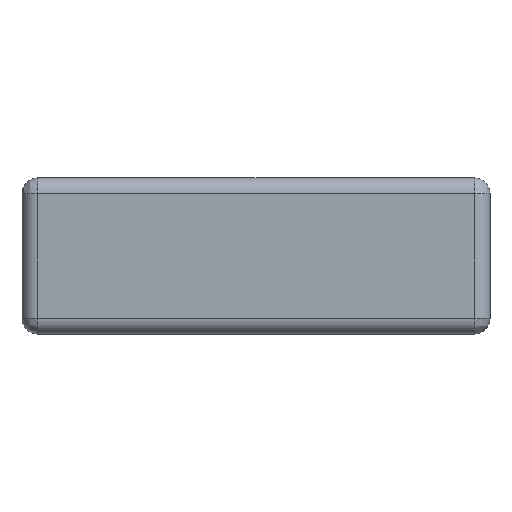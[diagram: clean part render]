
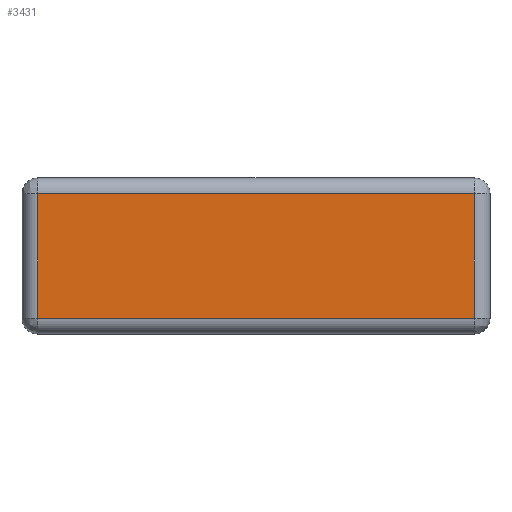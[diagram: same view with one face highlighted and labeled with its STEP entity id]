
A CAD part, top view. The second image highlights one B-rep face of the part: STEP entity #3431.
In plain terms, the highlighted planar face has unit normal (0, 0, 1).
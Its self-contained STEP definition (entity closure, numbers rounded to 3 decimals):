
#41 = CARTESIAN_POINT ( 'NONE',  ( -28., 0., 0. ) ) ;
#72 = VERTEX_POINT ( 'NONE', #582 ) ;
#435 = DIRECTION ( 'NONE',  ( 0., -1., 0. ) ) ;
#437 = VECTOR ( 'NONE', #1192, 1000. ) ;
#582 = CARTESIAN_POINT ( 'NONE',  ( -28., -8., 0. ) ) ;
#895 = CARTESIAN_POINT ( 'NONE',  ( 0., 8., 0. ) ) ;
#1037 = EDGE_CURVE ( 'NONE', #2438, #3680, #3984, .T. ) ;
#1122 = EDGE_CURVE ( 'NONE', #3680, #1691, #1809, .T. ) ;
#1192 = DIRECTION ( 'NONE',  ( 0., 1., 0. ) ) ;
#1227 = ORIENTED_EDGE ( 'NONE', *, *, #1037, .T. ) ;
#1342 = VECTOR ( 'NONE', #2122, 1000. ) ;
#1438 = PLANE ( 'NONE',  #3199 ) ;
#1487 = ORIENTED_EDGE ( 'NONE', *, *, #1122, .T. ) ;
#1545 = EDGE_LOOP ( 'NONE', ( #2521, #2854, #1227, #1487 ) ) ;
#1689 = VECTOR ( 'NONE', #435, 1000. ) ;
#1691 = VERTEX_POINT ( 'NONE', #2396 ) ;
#1809 = LINE ( 'NONE', #895, #1342 ) ;
#2049 = CARTESIAN_POINT ( 'NONE',  ( 0., 0., 0. ) ) ;
#2122 = DIRECTION ( 'NONE',  ( -1., 0., 0. ) ) ;
#2323 = DIRECTION ( 'NONE',  ( 0., -1., 0. ) ) ;
#2371 = FACE_OUTER_BOUND ( 'NONE', #1545, .T. ) ;
#2384 = CARTESIAN_POINT ( 'NONE',  ( 28., 0., 0. ) ) ;
#2396 = CARTESIAN_POINT ( 'NONE',  ( -28., 8., 0. ) ) ;
#2438 = VERTEX_POINT ( 'NONE', #3301 ) ;
#2521 = ORIENTED_EDGE ( 'NONE', *, *, #2774, .T. ) ;
#2761 = LINE ( 'NONE', #2844, #3831 ) ;
#2774 = EDGE_CURVE ( 'NONE', #1691, #72, #3203, .T. ) ;
#2844 = CARTESIAN_POINT ( 'NONE',  ( 0., -8., 0. ) ) ;
#2854 = ORIENTED_EDGE ( 'NONE', *, *, #3224, .T. ) ;
#2938 = DIRECTION ( 'NONE',  ( 0., 0., 1. ) ) ;
#3112 = DIRECTION ( 'NONE',  ( 1., 0., 0. ) ) ;
#3199 = AXIS2_PLACEMENT_3D ( 'NONE', #2049, #2938, #2323 ) ;
#3203 = LINE ( 'NONE', #41, #1689 ) ;
#3224 = EDGE_CURVE ( 'NONE', #72, #2438, #2761, .T. ) ;
#3301 = CARTESIAN_POINT ( 'NONE',  ( 28., -8., 0. ) ) ;
#3431 = ADVANCED_FACE ( 'NONE', ( #2371 ), #1438, .T. ) ;
#3680 = VERTEX_POINT ( 'NONE', #3840 ) ;
#3831 = VECTOR ( 'NONE', #3112, 1000. ) ;
#3840 = CARTESIAN_POINT ( 'NONE',  ( 28., 8., 0. ) ) ;
#3984 = LINE ( 'NONE', #2384, #437 ) ;
